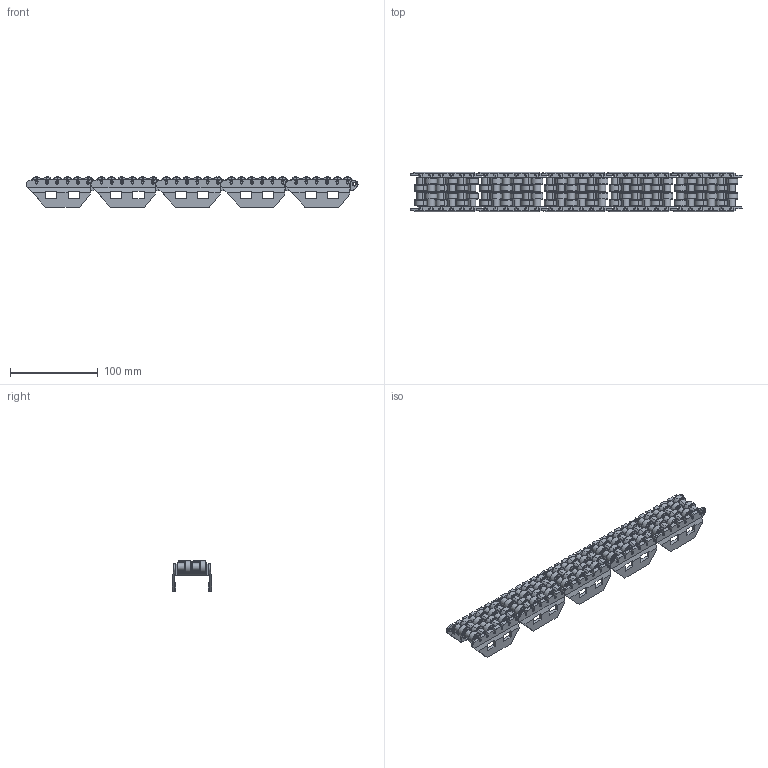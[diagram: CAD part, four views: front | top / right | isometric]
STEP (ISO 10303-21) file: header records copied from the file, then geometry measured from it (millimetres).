
FILE_DESCRIPTION(('STEP AP214'),'1');
FILE_NAME('P36302_01','2017-04-21T07:00:40',('dentellad'),(' '),'Spatial InterOp 3D',' ',' ');
FILE_SCHEMA(('automotive_design'));
Length unit declared in the file: millimetre
Products named in the file (95): 1; 2; 3; 4; 5; 6; 7; 8; 9; 10; 11; 12; 13; 14; 15; 16; 17; 18; 19; 20; 21; 22; 23; 24; 25; 26; 27; 28; 29; 30; 31; 32; 33; 34; 35; 36; 37; 38; 39; 40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
Bounding box: 377.68 x 45.4 x 34.52 mm (x, y, z)
Volume: 183515.5 mm3; surface area: 149987 mm2
Topology: 95 solids, 95 shells, 3240 faces, 7850 edges, 4890 vertices
Faces by surface type: cylinder 1035, plane 965, cone 660, torus 460, bspline 80, sphere 40
Entity records: 166750 total; most frequent: CARTESIAN_POINT 22255, DIRECTION 18160, ORIENTED_EDGE 15600, STYLED_ITEM 10875, PRESENTATION_STYLE_ASSIGNMENT 10875, COLOUR_RGB 10875, EDGE_CURVE 7800, CURVE_STYLE 7540
